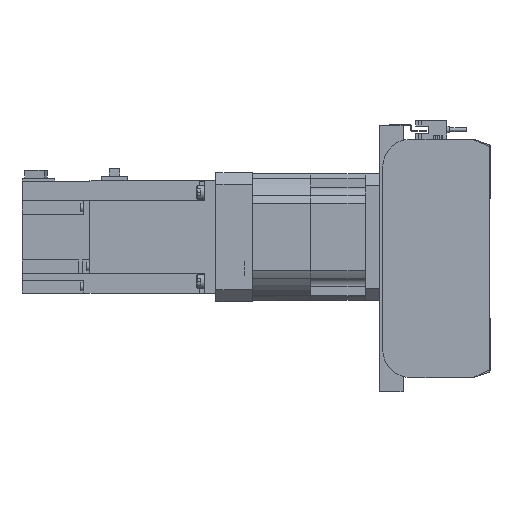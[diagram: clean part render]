
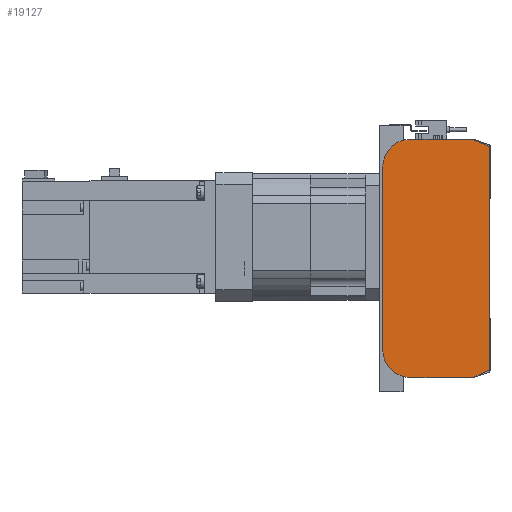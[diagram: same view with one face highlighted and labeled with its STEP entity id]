
A CAD part, left-side view. The second image highlights one B-rep face of the part: STEP entity #19127.
In plain terms, the highlighted planar face has unit normal (-1, 0, 0).
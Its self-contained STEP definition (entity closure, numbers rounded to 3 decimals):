
#1347=CIRCLE('',#20965,2.);
#1348=CIRCLE('',#20968,2.);
#1349=CIRCLE('',#20971,20.);
#1350=CIRCLE('',#20974,20.);
#5592=ORIENTED_EDGE('',*,*,#8899,.F.);
#5593=ORIENTED_EDGE('',*,*,#8977,.F.);
#5594=ORIENTED_EDGE('',*,*,#8975,.F.);
#5595=ORIENTED_EDGE('',*,*,#8973,.F.);
#5596=ORIENTED_EDGE('',*,*,#8726,.F.);
#5597=ORIENTED_EDGE('',*,*,#8972,.F.);
#5598=ORIENTED_EDGE('',*,*,#8970,.F.);
#5599=ORIENTED_EDGE('',*,*,#8968,.F.);
#5600=ORIENTED_EDGE('',*,*,#8966,.F.);
#5601=ORIENTED_EDGE('',*,*,#8964,.F.);
#8726=EDGE_CURVE('',#10784,#10785,#12438,.T.);
#8899=EDGE_CURVE('',#10856,#10857,#12552,.T.);
#8964=EDGE_CURVE('',#10857,#10898,#12597,.T.);
#8966=EDGE_CURVE('',#10898,#10899,#1347,.T.);
#8968=EDGE_CURVE('',#10899,#10900,#12600,.T.);
#8970=EDGE_CURVE('',#10900,#10901,#1348,.T.);
#8972=EDGE_CURVE('',#10901,#10784,#12603,.T.);
#8973=EDGE_CURVE('',#10785,#10902,#1349,.T.);
#8975=EDGE_CURVE('',#10902,#10903,#12605,.T.);
#8977=EDGE_CURVE('',#10903,#10856,#1350,.T.);
#10784=VERTEX_POINT('',#31768);
#10785=VERTEX_POINT('',#31770);
#10856=VERTEX_POINT('',#32066);
#10857=VERTEX_POINT('',#32068);
#10898=VERTEX_POINT('',#32198);
#10899=VERTEX_POINT('',#32202);
#10900=VERTEX_POINT('',#32206);
#10901=VERTEX_POINT('',#32210);
#10902=VERTEX_POINT('',#32216);
#10903=VERTEX_POINT('',#32220);
#12438=LINE('',#31769,#14135);
#12552=LINE('',#32067,#14249);
#12597=LINE('',#32197,#14294);
#12600=LINE('',#32205,#14297);
#12603=LINE('',#32213,#14300);
#12605=LINE('',#32219,#14302);
#14135=VECTOR('',#25483,1000.);
#14249=VECTOR('',#25821,1000.);
#14294=VECTOR('',#25954,1000.);
#14297=VECTOR('',#25963,1000.);
#14300=VECTOR('',#25972,1000.);
#14302=VECTOR('',#25980,1000.);
#15744=EDGE_LOOP('',(#5592,#5593,#5594,#5595,#5596,#5597,#5598,#5599,#5600,
#5601));
#17293=FACE_BOUND('',#15744,.T.);
#18118=PLANE('',#20976);
#19127=ADVANCED_FACE('',(#17293),#18118,.F.);
#20965=AXIS2_PLACEMENT_3D('',#32201,#25958,#25959);
#20968=AXIS2_PLACEMENT_3D('',#32209,#25967,#25968);
#20971=AXIS2_PLACEMENT_3D('',#32215,#25975,#25976);
#20974=AXIS2_PLACEMENT_3D('',#32223,#25984,#25985);
#20976=AXIS2_PLACEMENT_3D('',#32225,#25988,#25989);
#25483=DIRECTION('',(0.,1.,0.));
#25821=DIRECTION('',(0.,-1.,0.));
#25954=DIRECTION('',(0.,-0.913,-0.408));
#25958=DIRECTION('',(1.,0.,0.));
#25959=DIRECTION('',(0.,0.,-1.));
#25963=DIRECTION('',(0.,0.,-1.));
#25967=DIRECTION('',(1.,0.,0.));
#25968=DIRECTION('',(0.,0.,-1.));
#25972=DIRECTION('',(0.,0.913,-0.408));
#25975=DIRECTION('',(1.,0.,0.));
#25976=DIRECTION('',(0.,0.,-1.));
#25980=DIRECTION('',(0.,0.,1.));
#25984=DIRECTION('',(1.,0.,0.));
#25985=DIRECTION('',(0.,0.,-1.));
#25988=DIRECTION('',(1.,0.,0.));
#25989=DIRECTION('',(0.,0.,-1.));
#31768=CARTESIAN_POINT('',(0.,12.33,-85.));
#31769=CARTESIAN_POINT('',(0.,12.33,-85.));
#31770=CARTESIAN_POINT('',(0.,56.5,-85.));
#32066=CARTESIAN_POINT('',(0.,56.5,85.));
#32067=CARTESIAN_POINT('',(0.,56.5,85.));
#32068=CARTESIAN_POINT('',(0.,12.33,85.));
#32197=CARTESIAN_POINT('',(0.,12.33,85.));
#32198=CARTESIAN_POINT('',(0.,1.684,80.239));
#32201=CARTESIAN_POINT('',(0.,2.5,78.413));
#32202=CARTESIAN_POINT('',(0.,0.5,78.413));
#32205=CARTESIAN_POINT('',(0.,0.5,78.413));
#32206=CARTESIAN_POINT('',(0.,0.5,-78.413));
#32209=CARTESIAN_POINT('',(0.,2.5,-78.413));
#32210=CARTESIAN_POINT('',(0.,1.684,-80.239));
#32213=CARTESIAN_POINT('',(0.,1.684,-80.239));
#32215=CARTESIAN_POINT('',(0.,56.5,-65.));
#32216=CARTESIAN_POINT('',(0.,76.5,-65.));
#32219=CARTESIAN_POINT('',(0.,76.5,-65.));
#32220=CARTESIAN_POINT('',(0.,76.5,65.));
#32223=CARTESIAN_POINT('',(0.,56.5,65.));
#32225=CARTESIAN_POINT('',(0.,2.5,78.413));
